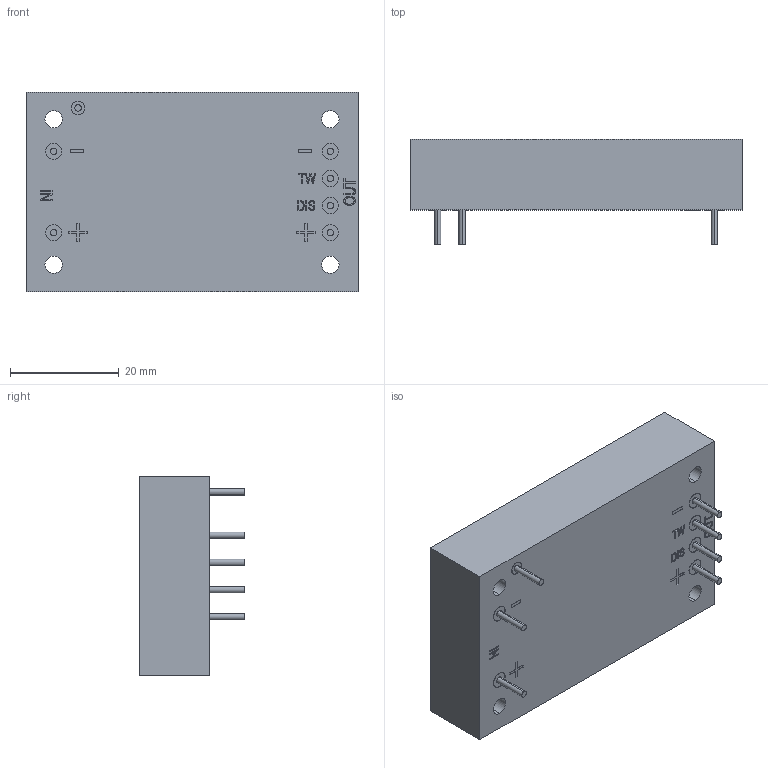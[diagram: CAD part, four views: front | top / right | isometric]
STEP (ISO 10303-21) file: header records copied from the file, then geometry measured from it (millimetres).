
FILE_DESCRIPTION (( 'STEP AP214' ), '1' );
FILE_NAME ('DSF226.STEP', '2018-09-12T11:08:02', ( '' ), ( '' ), 'SwSTEP 2.0', 'SolidWorks 2017', '' );
FILE_SCHEMA (( 'AUTOMOTIVE_DESIGN' ));
Length unit declared in the file: millimetre
Products named in the file (1): DSF226
Bounding box: 61.2 x 19.4 x 36.8 mm (x, y, z)
Volume: 28904.8 mm3; surface area: 7701.3 mm2
Topology: 1 solids, 1 shells, 207 faces, 525 edges, 350 vertices
Faces by surface type: plane 131, bspline 40, cylinder 36
Entity records: 8261 total; most frequent: CARTESIAN_POINT 3403, ORIENTED_EDGE 1050, DIRECTION 853, EDGE_CURVE 525, VECTOR 373, LINE 373, VERTEX_POINT 350, EDGE_LOOP 245
